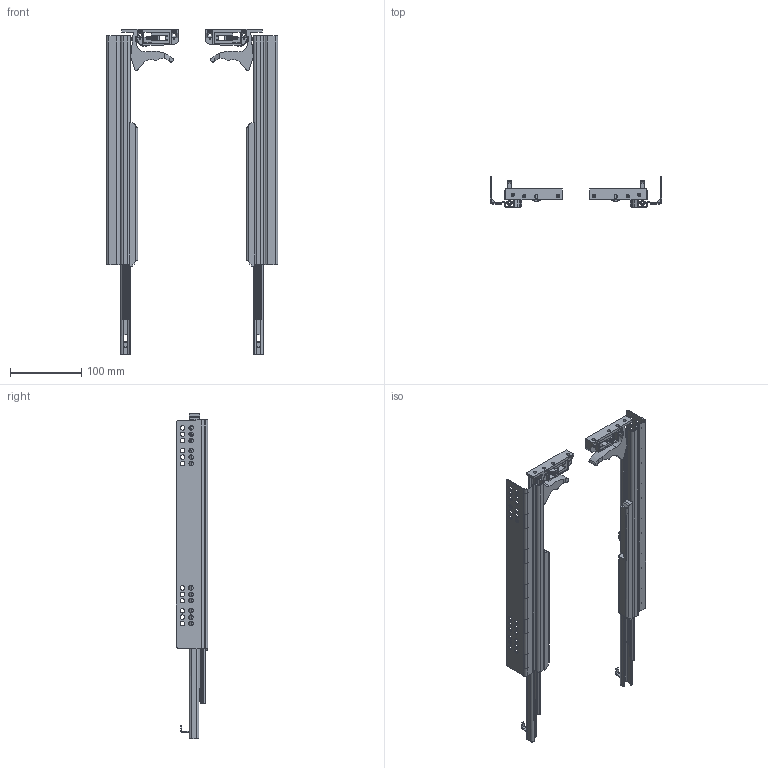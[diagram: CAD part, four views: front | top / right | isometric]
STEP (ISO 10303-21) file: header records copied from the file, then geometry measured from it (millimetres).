
FILE_DESCRIPTION (( 'STEP AP203' ), '1' );
FILE_NAME ('541786.STEP', '2026-05-04T13:58:45', ( '' ), ( '' ), 'SwSTEP 2.0', 'SolidWorks 2025', '' );
FILE_SCHEMA (( 'CONFIG_CONTROL_DESIGN' ));
Length unit declared in the file: millimetre
Products named in the file (5): StrongRide Uni tlumený plnovýsuv_L_541786_L; StrongRide UNI jištění šuplíku_zjednodušená verze_P_zasunutý; 541786; StrongRide Uni tlumený plnovýsuv_P_541786_P; StrongRide UNI jištění šuplíku_zjednodušená verze_L_zasunutý
Assembly tree (4 placements, depth 2):
  541786
    StrongRide Uni tlumený plnovýsuv_L_541786_L
    StrongRide Uni tlumený plnovýsuv_P_541786_P
    StrongRide UNI jištění šuplíku_zjednodušená verze_L_zasunutý
    StrongRide UNI jištění šuplíku_zjednodušená verze_P_zasunutý
Bounding box: 240 x 44 x 455.28 mm (x, y, z)
Volume: 259512.9 mm3; surface area: 288422.5 mm2
Topology: 16 solids, 16 shells, 926 faces, 2772 edges, 1846 vertices
Faces by surface type: plane 572, cylinder 316, bspline 30, torus 4, cone 4
Full cylindrical faces by diameter (mm): 4 x4, 4.4 x2, 5 x2, 6.3 x48, 8 x4
Entity records: 31469 total; most frequent: CARTESIAN_POINT 6661, ORIENTED_EDGE 5296, DIRECTION 4720, EDGE_CURVE 2648, VECTOR 1834, LINE 1834, VERTEX_POINT 1790, AXIS2_PLACEMENT_3D 1443
